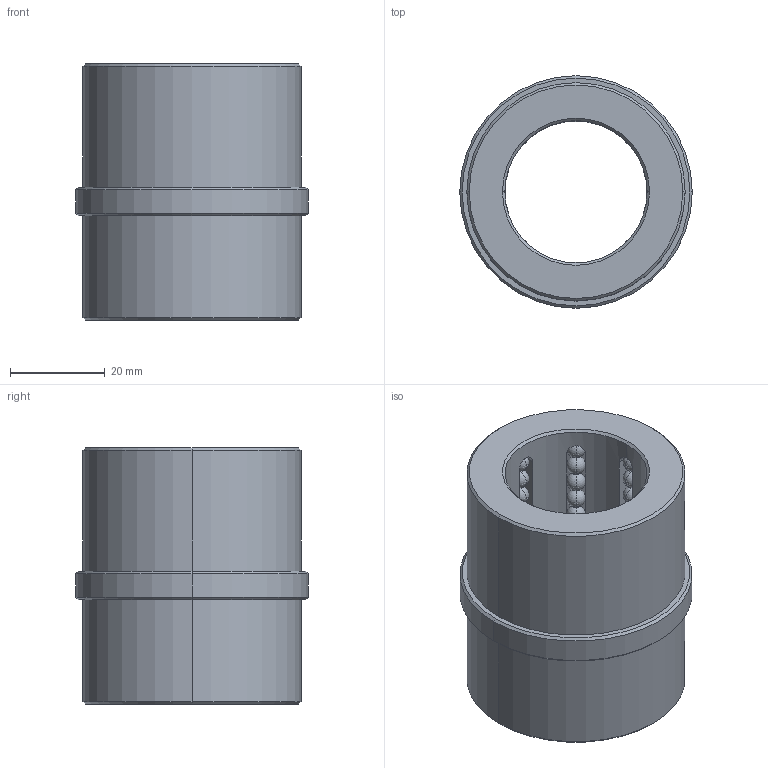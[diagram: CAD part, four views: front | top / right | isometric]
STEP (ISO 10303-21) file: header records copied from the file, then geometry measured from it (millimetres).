
FILE_DESCRIPTION((''),'2;1');
FILE_NAME('B844302232','2018-01-24T',('MANU'),(''),'PRO/ENGINEER BY PARAMETRIC TECHNOLOGY CORPORATION, 2012130','PRO/ENGINEER BY PARAMETRIC TECHNOLOGY CORPORATION, 2012130','');
FILE_SCHEMA(('CONFIG_CONTROL_DESIGN'));
Length unit declared in the file: millimetre
Products named in the file (1): B844302232
Bounding box: 49 x 49 x 54 mm (x, y, z)
Volume: 50079.4 mm3; surface area: 22598.6 mm2
Topology: 89 solids, 89 shells, 240 faces, 678 edges, 272 vertices
Faces by surface type: sphere 176, plane 28, cylinder 24, cone 12
Entity records: 5489 total; most frequent: CARTESIAN_POINT 1159, DIRECTION 1006, ORIENTED_EDGE 652, AXIS2_PLACEMENT_3D 460, EDGE_CURVE 326, VERTEX_POINT 272, EDGE_LOOP 250, FACE_OUTER_BOUND 240
